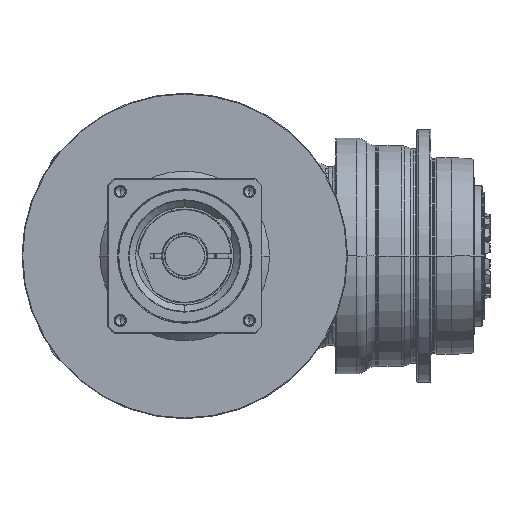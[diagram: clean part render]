
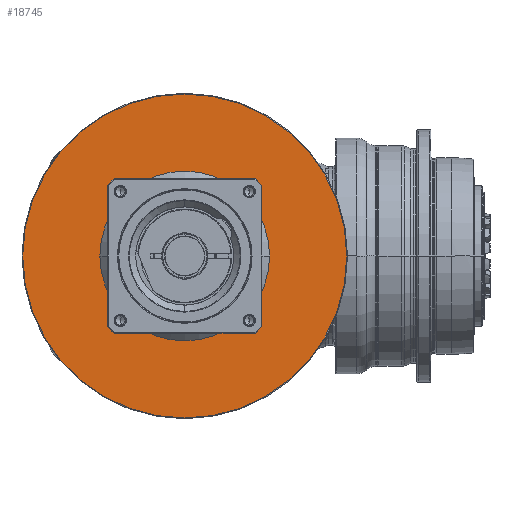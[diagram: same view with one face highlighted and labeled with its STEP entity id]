
A CAD part, front view. The second image highlights one B-rep face of the part: STEP entity #18745.
In plain terms, the highlighted planar face has unit normal (0, -1, 0) as drawn and (1, 0, 0) by its records, which use the part's own axes.
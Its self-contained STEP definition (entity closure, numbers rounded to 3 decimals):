
#18272=CARTESIAN_POINT('',(-5.5,0.,
0.));
#18273=DIRECTION('',(-1.,0.,0.));
#18274=DIRECTION('',(0.,1.,0.));
#18275=AXIS2_PLACEMENT_3D('',#18272,#18273,#18274);
#18277=CARTESIAN_POINT('',(-5.5,0.,
0.));
#18278=DIRECTION('',(-1.,0.,0.));
#18279=DIRECTION('',(0.,-1.,0.));
#18280=AXIS2_PLACEMENT_3D('',#18277,#18278,#18279);
#18282=CARTESIAN_POINT('',(-5.5,0.,0.));
#18283=DIRECTION('',(-1.,0.,0.));
#18284=DIRECTION('',(0.,-1.,0.));
#18285=AXIS2_PLACEMENT_3D('',#18282,#18283,#18284);
#18287=CARTESIAN_POINT('',(-5.5,0.,0.));
#18288=DIRECTION('',(-1.,0.,0.));
#18289=DIRECTION('',(0.,1.,0.));
#18290=AXIS2_PLACEMENT_3D('',#18287,#18288,#18289);
#18316=CARTESIAN_POINT('',(-5.5,-115.5,0.));
#18317=CARTESIAN_POINT('',(-5.5,115.5,0.));
#18318=VERTEX_POINT('',#18316);
#18319=VERTEX_POINT('',#18317);
#18364=CARTESIAN_POINT('',(-5.5,60.5,0.));
#18365=CARTESIAN_POINT('',(-5.5,-60.5,
0.));
#18366=VERTEX_POINT('',#18364);
#18367=VERTEX_POINT('',#18365);
#18730=CARTESIAN_POINT('',(-5.5,0.,0.));
#18731=DIRECTION('',(1.,0.,0.));
#18732=DIRECTION('',(0.,-1.,0.));
#18733=AXIS2_PLACEMENT_3D('',#18730,#18731,#18732);
#18734=PLANE('',#18733);
#18735=ORIENTED_EDGE('',*,*,#18671,.T.);
#18736=ORIENTED_EDGE('',*,*,#18686,.T.);
#18737=EDGE_LOOP('',(#18735,#18736));
#18738=FACE_OUTER_BOUND('',#18737,.F.);
#18740=ORIENTED_EDGE('',*,*,#18739,.F.);
#18742=ORIENTED_EDGE('',*,*,#18741,.F.);
#18743=EDGE_LOOP('',(#18740,#18742));
#18744=FACE_BOUND('',#18743,.F.);
#18745=ADVANCED_FACE('',(#18738,#18744),#18734,.T.);
#18276=CIRCLE('',#18275,60.5);
#18281=CIRCLE('',#18280,60.5);
#18286=CIRCLE('',#18285,115.5);
#18291=CIRCLE('',#18290,115.5);
#18671=EDGE_CURVE('',#18318,#18319,#18286,.T.);
#18686=EDGE_CURVE('',#18319,#18318,#18291,.T.);
#18739=EDGE_CURVE('',#18366,#18367,#18276,.T.);
#18741=EDGE_CURVE('',#18367,#18366,#18281,.T.);
